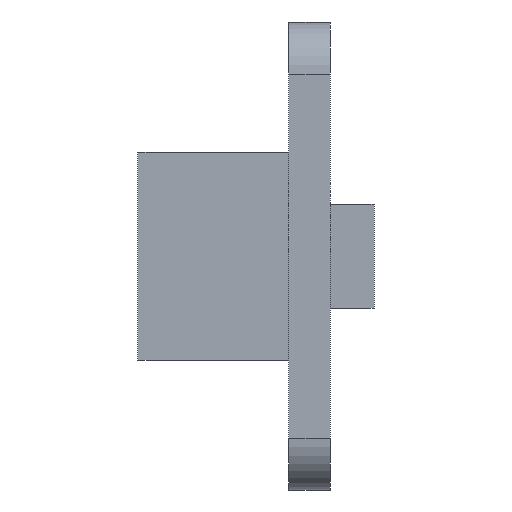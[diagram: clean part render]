
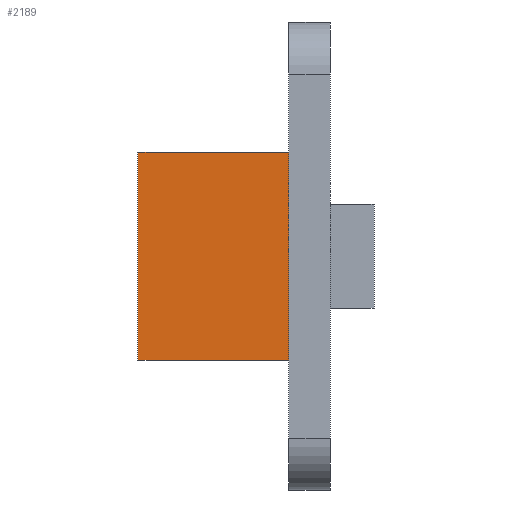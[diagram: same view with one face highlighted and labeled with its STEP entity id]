
A CAD part, left-side view. The second image highlights one B-rep face of the part: STEP entity #2189.
In plain terms, the highlighted planar face has unit normal (-1, 0, 0).
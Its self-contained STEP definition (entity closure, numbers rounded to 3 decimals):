
#100 = PLANE('',#101);
#101 = AXIS2_PLACEMENT_3D('',#102,#103,#104);
#102 = CARTESIAN_POINT('',(-18.5,-29.7,95.5));
#103 = DIRECTION('',(-0.,1.,0.));
#104 = DIRECTION('',(0.,0.,1.));
#994 = VERTEX_POINT('',#995);
#995 = CARTESIAN_POINT('',(-3.,-29.7,102.));
#1010 = PLANE('',#1011);
#1011 = AXIS2_PLACEMENT_3D('',#1012,#1013,#1014);
#1012 = CARTESIAN_POINT('',(-3.,-29.71,102.));
#1013 = DIRECTION('',(0.,0.,1.));
#1014 = DIRECTION('',(1.,0.,-0.));
#1021 = EDGE_CURVE('',#994,#1022,#1024,.T.);
#1022 = VERTEX_POINT('',#1023);
#1023 = CARTESIAN_POINT('',(-3.,-29.7,98.));
#1024 = SURFACE_CURVE('',#1025,(#1029,#1035),.PCURVE_S1.);
#1025 = LINE('',#1026,#1027);
#1026 = CARTESIAN_POINT('',(-3.,-29.7,96.75));
#1027 = VECTOR('',#1028,1.);
#1028 = DIRECTION('',(-0.,0.,-1.));
#1029 = PCURVE('',#100,#1030);
#1030 = DEFINITIONAL_REPRESENTATION('',(#1031),#1034);
#1031 = B_SPLINE_CURVE_WITH_KNOTS('',1,(#1032,#1033),.UNSPECIFIED.,.F.,
  .F.,(2,2),(-5.25,-1.25),.PIECEWISE_BEZIER_KNOTS.);
#1032 = CARTESIAN_POINT('',(6.5,15.5));
#1033 = CARTESIAN_POINT('',(2.5,15.5));
#1034 = ( GEOMETRIC_REPRESENTATION_CONTEXT(2) 
PARAMETRIC_REPRESENTATION_CONTEXT() REPRESENTATION_CONTEXT('2D SPACE',''
  ) );
#1035 = PCURVE('',#1036,#1041);
#1036 = PLANE('',#1037);
#1037 = AXIS2_PLACEMENT_3D('',#1038,#1039,#1040);
#1038 = CARTESIAN_POINT('',(-3.,-29.71,98.));
#1039 = DIRECTION('',(1.,0.,-0.));
#1040 = DIRECTION('',(0.,0.,1.));
#1041 = DEFINITIONAL_REPRESENTATION('',(#1042),#1045);
#1042 = B_SPLINE_CURVE_WITH_KNOTS('',1,(#1043,#1044),.UNSPECIFIED.,.F.,
  .F.,(2,2),(-5.25,-1.25),.PIECEWISE_BEZIER_KNOTS.);
#1043 = CARTESIAN_POINT('',(4.,-0.01));
#1044 = CARTESIAN_POINT('',(0.,-0.01));
#1045 = ( GEOMETRIC_REPRESENTATION_CONTEXT(2) 
PARAMETRIC_REPRESENTATION_CONTEXT() REPRESENTATION_CONTEXT('2D SPACE',''
  ) );
#1062 = PLANE('',#1063);
#1063 = AXIS2_PLACEMENT_3D('',#1064,#1065,#1066);
#1064 = CARTESIAN_POINT('',(-3.,-29.71,98.));
#1065 = DIRECTION('',(0.,0.,1.));
#1066 = DIRECTION('',(1.,0.,-0.));
#2019 = EDGE_CURVE('',#994,#2020,#2022,.T.);
#2020 = VERTEX_POINT('',#2021);
#2021 = CARTESIAN_POINT('',(-3.,-26.8,102.));
#2022 = SURFACE_CURVE('',#2023,(#2027,#2034),.PCURVE_S1.);
#2023 = LINE('',#2024,#2025);
#2024 = CARTESIAN_POINT('',(-3.,-29.71,102.));
#2025 = VECTOR('',#2026,1.);
#2026 = DIRECTION('',(-0.,1.,0.));
#2027 = PCURVE('',#1010,#2028);
#2028 = DEFINITIONAL_REPRESENTATION('',(#2029),#2033);
#2029 = LINE('',#2030,#2031);
#2030 = CARTESIAN_POINT('',(0.,0.));
#2031 = VECTOR('',#2032,1.);
#2032 = DIRECTION('',(0.,1.));
#2033 = ( GEOMETRIC_REPRESENTATION_CONTEXT(2) 
PARAMETRIC_REPRESENTATION_CONTEXT() REPRESENTATION_CONTEXT('2D SPACE',''
  ) );
#2034 = PCURVE('',#1036,#2035);
#2035 = DEFINITIONAL_REPRESENTATION('',(#2036),#2040);
#2036 = LINE('',#2037,#2038);
#2037 = CARTESIAN_POINT('',(4.,0.));
#2038 = VECTOR('',#2039,1.);
#2039 = DIRECTION('',(0.,-1.));
#2040 = ( GEOMETRIC_REPRESENTATION_CONTEXT(2) 
PARAMETRIC_REPRESENTATION_CONTEXT() REPRESENTATION_CONTEXT('2D SPACE',''
  ) );
#2080 = PLANE('',#2081);
#2081 = AXIS2_PLACEMENT_3D('',#2082,#2083,#2084);
#2082 = CARTESIAN_POINT('',(-3.,-26.8,98.));
#2083 = DIRECTION('',(-0.,1.,0.));
#2084 = DIRECTION('',(0.,0.,1.));
#2144 = EDGE_CURVE('',#1022,#2145,#2147,.T.);
#2145 = VERTEX_POINT('',#2146);
#2146 = CARTESIAN_POINT('',(-3.,-26.8,98.));
#2147 = SURFACE_CURVE('',#2148,(#2152,#2159),.PCURVE_S1.);
#2148 = LINE('',#2149,#2150);
#2149 = CARTESIAN_POINT('',(-3.,-29.71,98.));
#2150 = VECTOR('',#2151,1.);
#2151 = DIRECTION('',(-0.,1.,0.));
#2152 = PCURVE('',#1062,#2153);
#2153 = DEFINITIONAL_REPRESENTATION('',(#2154),#2158);
#2154 = LINE('',#2155,#2156);
#2155 = CARTESIAN_POINT('',(0.,0.));
#2156 = VECTOR('',#2157,1.);
#2157 = DIRECTION('',(0.,1.));
#2158 = ( GEOMETRIC_REPRESENTATION_CONTEXT(2) 
PARAMETRIC_REPRESENTATION_CONTEXT() REPRESENTATION_CONTEXT('2D SPACE',''
  ) );
#2159 = PCURVE('',#1036,#2160);
#2160 = DEFINITIONAL_REPRESENTATION('',(#2161),#2165);
#2161 = LINE('',#2162,#2163);
#2162 = CARTESIAN_POINT('',(0.,0.));
#2163 = VECTOR('',#2164,1.);
#2164 = DIRECTION('',(0.,-1.));
#2165 = ( GEOMETRIC_REPRESENTATION_CONTEXT(2) 
PARAMETRIC_REPRESENTATION_CONTEXT() REPRESENTATION_CONTEXT('2D SPACE',''
  ) );
#2189 = ADVANCED_FACE('',(#2190),#1036,.F.);
#2190 = FACE_BOUND('',#2191,.F.);
#2191 = EDGE_LOOP('',(#2192,#2193,#2194,#2195));
#2192 = ORIENTED_EDGE('',*,*,#2019,.F.);
#2193 = ORIENTED_EDGE('',*,*,#1021,.T.);
#2194 = ORIENTED_EDGE('',*,*,#2144,.T.);
#2195 = ORIENTED_EDGE('',*,*,#2196,.T.);
#2196 = EDGE_CURVE('',#2145,#2020,#2197,.T.);
#2197 = SURFACE_CURVE('',#2198,(#2202,#2209),.PCURVE_S1.);
#2198 = LINE('',#2199,#2200);
#2199 = CARTESIAN_POINT('',(-3.,-26.8,98.));
#2200 = VECTOR('',#2201,1.);
#2201 = DIRECTION('',(0.,0.,1.));
#2202 = PCURVE('',#1036,#2203);
#2203 = DEFINITIONAL_REPRESENTATION('',(#2204),#2208);
#2204 = LINE('',#2205,#2206);
#2205 = CARTESIAN_POINT('',(0.,-2.91));
#2206 = VECTOR('',#2207,1.);
#2207 = DIRECTION('',(1.,0.));
#2208 = ( GEOMETRIC_REPRESENTATION_CONTEXT(2) 
PARAMETRIC_REPRESENTATION_CONTEXT() REPRESENTATION_CONTEXT('2D SPACE',''
  ) );
#2209 = PCURVE('',#2080,#2210);
#2210 = DEFINITIONAL_REPRESENTATION('',(#2211),#2215);
#2211 = LINE('',#2212,#2213);
#2212 = CARTESIAN_POINT('',(0.,0.));
#2213 = VECTOR('',#2214,1.);
#2214 = DIRECTION('',(1.,0.));
#2215 = ( GEOMETRIC_REPRESENTATION_CONTEXT(2) 
PARAMETRIC_REPRESENTATION_CONTEXT() REPRESENTATION_CONTEXT('2D SPACE',''
  ) );
